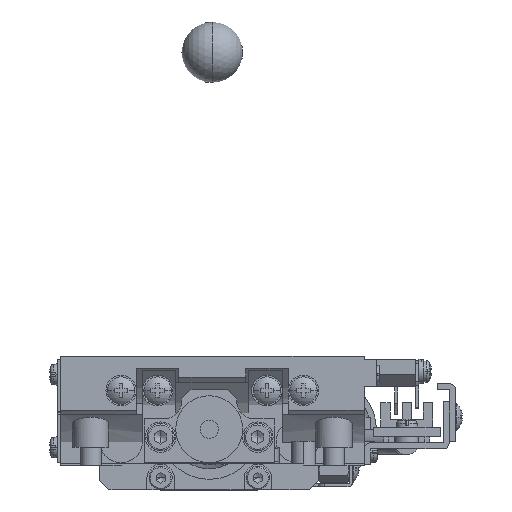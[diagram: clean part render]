
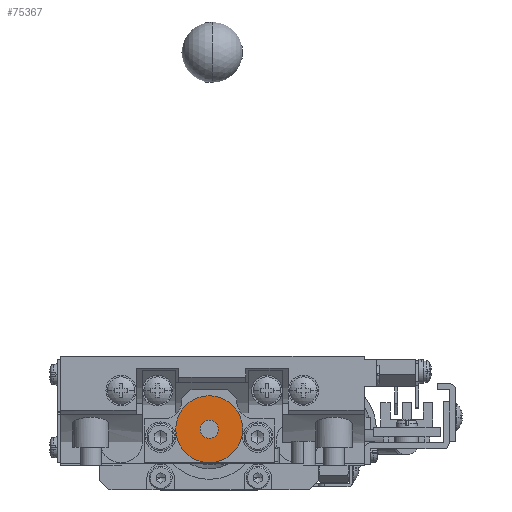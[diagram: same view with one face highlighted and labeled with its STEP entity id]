
A CAD part, left-side view. The second image highlights one B-rep face of the part: STEP entity #75367.
In plain terms, the highlighted planar face has unit normal (-1, 0, 0).
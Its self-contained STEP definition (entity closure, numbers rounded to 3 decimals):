
#3587 = AXIS2_PLACEMENT_3D ( 'NONE', #58155, #46090, #70436 ) ;
#3882 = VERTEX_POINT ( 'NONE', #66796 ) ;
#5549 = AXIS2_PLACEMENT_3D ( 'NONE', #32285, #20298, #50588 ) ;
#6188 = PLANE ( 'NONE',  #59046 ) ;
#8202 = ORIENTED_EDGE ( 'NONE', *, *, #57248, .F. ) ;
#9643 = AXIS2_PLACEMENT_3D ( 'NONE', #66191, #47871, #12062 ) ;
#12062 = DIRECTION ( 'NONE',  ( 0., 1., 0. ) ) ;
#16778 = FACE_BOUND ( 'NONE', #34734, .T. ) ;
#17183 = AXIS2_PLACEMENT_3D ( 'NONE', #17482, #71369, #42000 ) ;
#17482 = CARTESIAN_POINT ( 'NONE',  ( -293.725, 176.506, -11.282 ) ) ;
#20298 = DIRECTION ( 'NONE',  ( -1., 0., 0. ) ) ;
#20685 = CIRCLE ( 'NONE', #9643, 5.5 ) ;
#21500 = VERTEX_POINT ( 'NONE', #52388 ) ;
#24095 = VERTEX_POINT ( 'NONE', #74875 ) ;
#24504 = CIRCLE ( 'NONE', #3587, 1.5 ) ;
#25531 = DIRECTION ( 'NONE',  ( 0., 1., 0. ) ) ;
#28049 = EDGE_CURVE ( 'NONE', #24095, #41576, #24504, .T. ) ;
#28295 = EDGE_CURVE ( 'NONE', #21500, #3882, #20685, .T. ) ;
#32285 = CARTESIAN_POINT ( 'NONE',  ( -293.725, 176.506, -11.282 ) ) ;
#33518 = ORIENTED_EDGE ( 'NONE', *, *, #34014, .T. ) ;
#34014 = EDGE_CURVE ( 'NONE', #3882, #21500, #43025, .T. ) ;
#34486 = ORIENTED_EDGE ( 'NONE', *, *, #28049, .F. ) ;
#34734 = EDGE_LOOP ( 'NONE', ( #8202, #34486 ) ) ;
#37722 = CARTESIAN_POINT ( 'NONE',  ( -293.725, 176.506, -9.782 ) ) ;
#41576 = VERTEX_POINT ( 'NONE', #37722 ) ;
#42000 = DIRECTION ( 'NONE',  ( 0., 1., 0. ) ) ;
#43025 = CIRCLE ( 'NONE', #5549, 5.5 ) ;
#43263 = DIRECTION ( 'NONE',  ( -1., 0., 0. ) ) ;
#46090 = DIRECTION ( 'NONE',  ( -1., 0., 0. ) ) ;
#47225 = ORIENTED_EDGE ( 'NONE', *, *, #28295, .T. ) ;
#47871 = DIRECTION ( 'NONE',  ( -1., 0., 0. ) ) ;
#48632 = CIRCLE ( 'NONE', #17183, 1.5 ) ;
#50588 = DIRECTION ( 'NONE',  ( 0., 1., 0. ) ) ;
#52388 = CARTESIAN_POINT ( 'NONE',  ( -293.725, 171.006, -11.282 ) ) ;
#54032 = CARTESIAN_POINT ( 'NONE',  ( -293.725, 176.506, -11.282 ) ) ;
#57248 = EDGE_CURVE ( 'NONE', #41576, #24095, #48632, .T. ) ;
#57990 = FACE_OUTER_BOUND ( 'NONE', #73944, .T. ) ;
#58155 = CARTESIAN_POINT ( 'NONE',  ( -293.725, 176.506, -11.282 ) ) ;
#59046 = AXIS2_PLACEMENT_3D ( 'NONE', #54032, #43263, #25531 ) ;
#66191 = CARTESIAN_POINT ( 'NONE',  ( -293.725, 176.506, -11.282 ) ) ;
#66796 = CARTESIAN_POINT ( 'NONE',  ( -293.725, 182.006, -11.282 ) ) ;
#70436 = DIRECTION ( 'NONE',  ( 0., 1., 0. ) ) ;
#71369 = DIRECTION ( 'NONE',  ( -1., 0., 0. ) ) ;
#73944 = EDGE_LOOP ( 'NONE', ( #33518, #47225 ) ) ;
#74875 = CARTESIAN_POINT ( 'NONE',  ( -293.725, 176.506, -12.782 ) ) ;
#75367 = ADVANCED_FACE ( 'NONE', ( #16778, #57990 ), #6188, .T. ) ;
